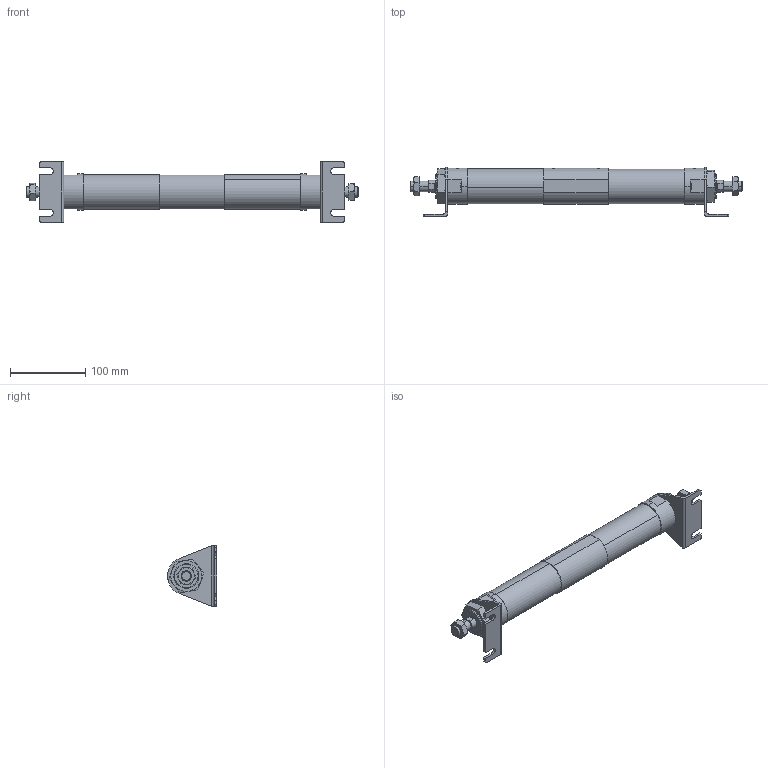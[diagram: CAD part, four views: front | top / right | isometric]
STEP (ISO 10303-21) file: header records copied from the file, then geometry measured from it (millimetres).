
FILE_DESCRIPTION (( 'STEP AP203' ), '1' );
FILE_NAME ('JGD7-40-50-50-L.STEP', '2016-04-19T07:25:34', ( '' ), ( '' ), 'SwSTEP 2.0', 'SolidWorks 2014', '' );
FILE_SCHEMA (( 'CONFIG_CONTROL_DESIGN' ));
Length unit declared in the file: millimetre
Products named in the file (7): M33x2-11mm; JGD7-40-50-50-L; JGLH2-40B; M14x1.5-8mm; J#2-40-L; 40-50; JGD2-40MI
Assembly tree (11 placements, depth 2):
  JGD7-40-50-50-L
    JGLH2-40B  x2
    40-50  x2
    M14x1.5-8mm  x2
    J#2-40-L  x2
    M33x2-11mm  x2
    JGD2-40MI
Bounding box: 440 x 65 x 80 mm (x, y, z)
Volume: 665539.6 mm3; surface area: 109046.9 mm2
Topology: 11 solids, 11 shells, 226 faces, 522 edges, 318 vertices
Faces by surface type: plane 90, cylinder 62, torus 48, cone 26
Entity records: 4765 total; most frequent: CARTESIAN_POINT 1218, DIRECTION 576, ORIENTED_EDGE 542, EDGE_CURVE 271, AXIS2_PLACEMENT_3D 232, VERTEX_POINT 168, EDGE_LOOP 131, ADVANCED_FACE 120
